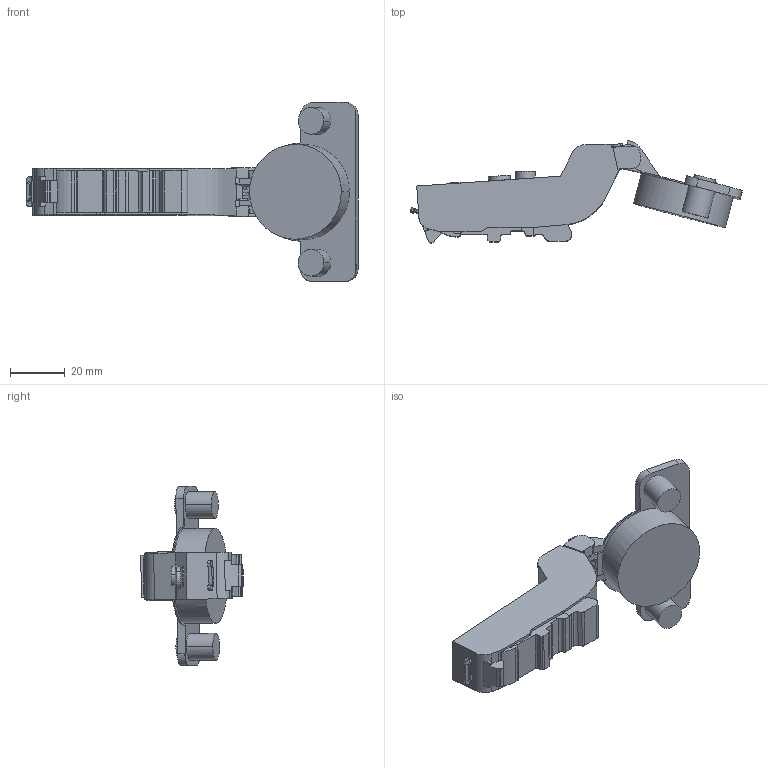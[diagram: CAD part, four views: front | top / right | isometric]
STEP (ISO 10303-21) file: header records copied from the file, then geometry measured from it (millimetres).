
FILE_DESCRIPTION (( 'STEP AP203' ), '1' );
FILE_NAME ('C81C877T0FAB DTC 3D OPEN.STEP', '2024-07-24T05:44:51', ( '微软用户' ), ( '微软中国' ), 'SwSTEP 2.0', 'SolidWorks 2021', '' );
FILE_SCHEMA (( 'CONFIG_CONTROL_DESIGN' ));
Length unit declared in the file: millimetre
Products named in the file (1): C81C877T0FAB DTC 3D OPEN
Bounding box: 121.69 x 37.5 x 65.65 mm (x, y, z)
Volume: 44686.3 mm3; surface area: 13587.6 mm2
Topology: 1 solids, 2 shells, 476 faces, 1331 edges, 871 vertices
Faces by surface type: plane 231, cylinder 183, torus 30, bspline 20, cone 8, sphere 4
Entity records: 16124 total; most frequent: CARTESIAN_POINT 4019, ORIENTED_EDGE 2662, DIRECTION 2415, EDGE_CURVE 1331, VERTEX_POINT 871, AXIS2_PLACEMENT_3D 843, LINE 729, VECTOR 729
